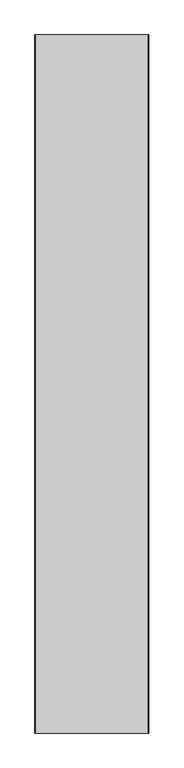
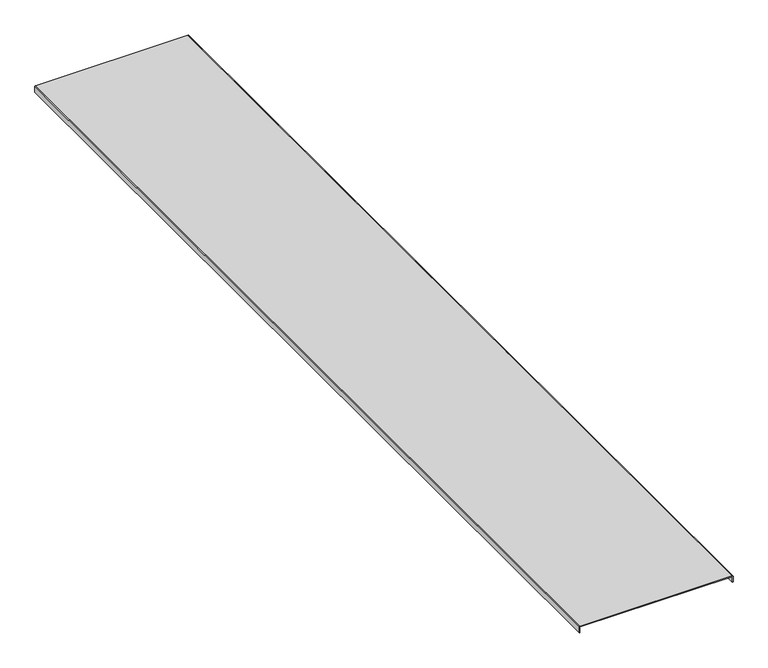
"""IFC4 building model written with IfcOpenShell, lengths in millimetres: proxy geometry, Cable_Ladder_Cover_TBSL-_Basortrav : Basortrav TBSL 300 GC."""

from ifc_helpers import new_model, si_unit, point, frame, frame_2d, origin, place, context, project, spatial, polyline, circle_curve, trimmed, segment, composite_curve, outline, extrude, source, transform, mapped, element, save


def generic_models_81fffbc1(model_context):
    return source(origin(), model_context, "Body", "SweptSolid", [
        extrude(outline(composite_curve([segment(trimmed(circle_curve(frame_2d((-0.5, -175.5)), 0.5), [point((-0.5, -176.0))], [point((0.0, -175.5))], True, "CARTESIAN"), True, "CONTINUOUS"), segment(polyline([(0.0, -175.5), (0.0, 175.5)]), True, "CONTINUOUS"), segment(trimmed(circle_curve(frame_2d((-0.5, 175.5)), 0.5), [point((0.0, 175.5))], [point((-0.5, 176.0))], True, "CARTESIAN"), True, "CONTINUOUS"), segment(polyline([(-0.5, 176.0), (-13.5, 176.0), (-13.5, 177.5), (-0.5, 177.5)]), True, "CONTINUOUS"), segment(trimmed(circle_curve(frame_2d((-0.5, 175.5)), 2.0), [point((-0.5, 177.5))], [point((1.5, 175.5))], False, "CARTESIAN"), True, "CONTINUOUS"), segment(polyline([(1.5, 175.5), (1.5, -175.5)]), True, "CONTINUOUS"), segment(trimmed(circle_curve(frame_2d((-0.5, -175.5)), 2.0), [point((1.5, -175.5))], [point((-0.5, -177.5))], False, "CARTESIAN"), True, "CONTINUOUS"), segment(polyline([(-0.5, -177.5), (-13.5, -177.5), (-13.5, -176.0), (-0.5, -176.0)]), True, "CONTINUOUS")], self_intersect=False)), frame((0.0, 0.0, 0.0), z_axis=(0.0, 1.0, 0.0), x_axis=(0.0, 0.0, 1.0)), (0.0, 0.0, 1.0), 2175.0),
    ])


if __name__ == "__main__":
    model = new_model("IFC4")
    model_context = context("Model", 3, world=origin())
    ifc_project = project(units=[si_unit("LENGTHUNIT", "METRE", prefix="MILLI")], contexts=[model_context])
    site = spatial("IfcSite", under=ifc_project)
    building = spatial("IfcBuilding", under=site)
    placement = place(None, origin())
    generic_models_shape = generic_models_81fffbc1(model_context)
    element("IfcBuildingElementProxy", 1, Name="Cable_Ladder_Cover_TBSL-_Basortrav : Basortrav TBSL 300 GC", ObjectType="Cable_Ladder_Cover_TBSL-_Basortrav : Basortrav TBSL 300 GC", at=placement, inside=building, context=model_context, shape_type="MappedRepresentation", body=[
        mapped(generic_models_shape, transform((0.0, 0.0, 0.0), x_axis=(1.0, 0.0, 0.0), y_axis=(0.0, 1.0, 0.0), z_axis=(0.0, 0.0, 1.0))),
    ])
    save(model, "model.ifc")
